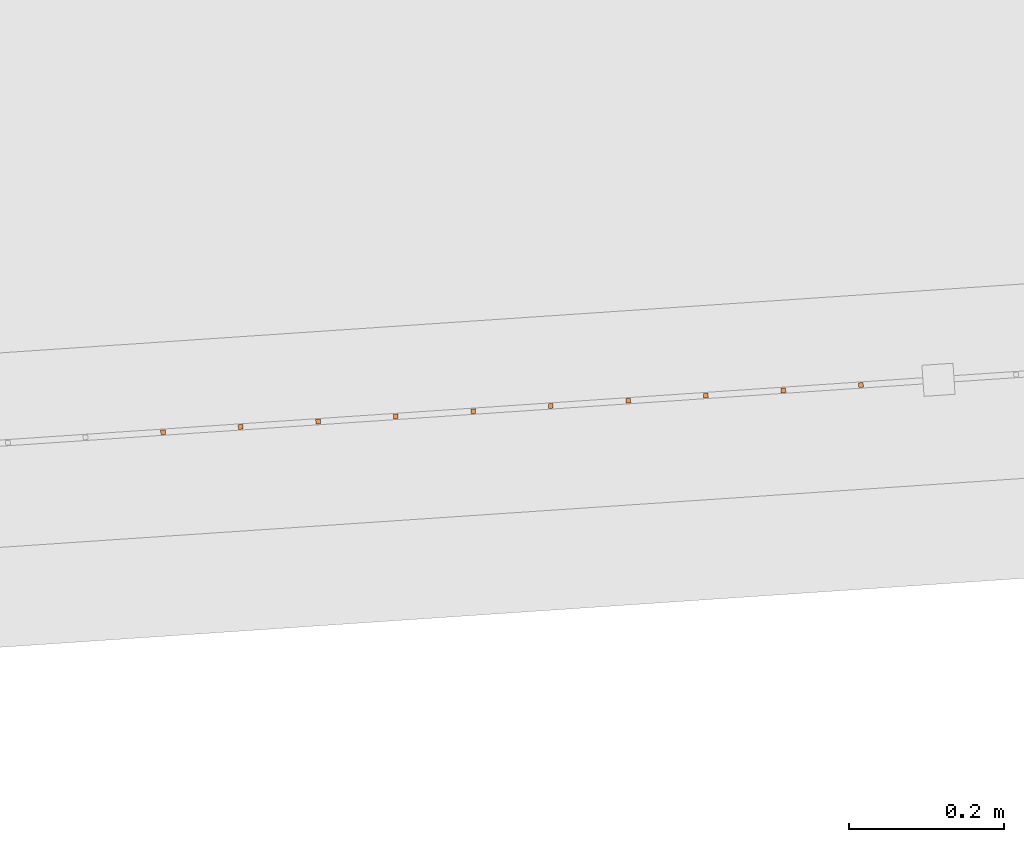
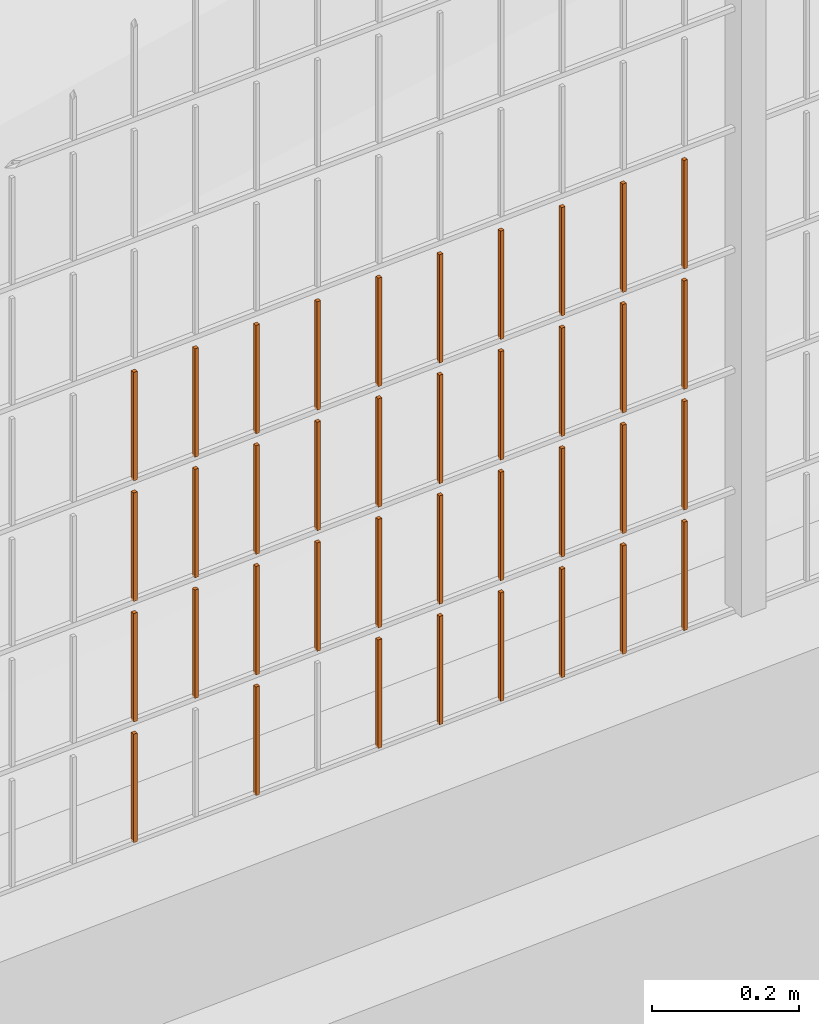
# One storey, part 94 of 1809: 38 proxies, 1 element without a shape of its own.
"""IFC2X3 building model written with IfcOpenShell, lengths in millimetres."""

from ifc_helpers import new_model, entity, si_unit, converted_unit, derived_unit, money_unit, direction, frame, origin_with_axes, place, context, subcontext, project, spatial, faceted_brep, source, transform, mapped, material, type_object, element, aggregate, save


model = new_model("IFC2X3")

# Units and contexts
model_context = context("Model", 3, precision=0.01, world=origin_with_axes(), true_north=direction((0.0, 1.0)))
body_context = subcontext(model_context, "Body", "Model", "MODEL_VIEW")
ifc_project = project(units=[si_unit("LENGTHUNIT", "METRE", prefix="MILLI"), si_unit("AREAUNIT", "SQUARE_METRE"), si_unit("VOLUMEUNIT", "CUBIC_METRE"), converted_unit("PLANEANGLEUNIT", "DEGREE", entity("IfcPlaneAngleMeasure", 0.0174532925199), si_unit("PLANEANGLEUNIT", "RADIAN"), dimensions=[0, 0, 0, 0, 0, 0, 0]), si_unit("SOLIDANGLEUNIT", "STERADIAN"), money_unit("EUR"), converted_unit("TIMEUNIT", "Year", entity("IfcTimeMeasure", 31556926.0), si_unit("TIMEUNIT", "SECOND"), dimensions=[0, 0, 1, 0, 0, 0, 0]), si_unit("MASSUNIT", "GRAM", prefix="KILO"), si_unit("THERMODYNAMICTEMPERATUREUNIT", "DEGREE_CELSIUS"), si_unit("LUMINOUSINTENSITYUNIT", "LUMEN"), si_unit("ENERGYUNIT", "JOULE", prefix="MEGA"), derived_unit("THERMALCONDUCTANCEUNIT", [(si_unit("POWERUNIT", "WATT"), 1), (si_unit("LENGTHUNIT", "METRE"), -1), (si_unit("THERMODYNAMICTEMPERATUREUNIT", "KELVIN"), -1)]), derived_unit("SPECIFICHEATCAPACITYUNIT", [(si_unit("ENERGYUNIT", "JOULE"), 1), (si_unit("MASSUNIT", "GRAM", prefix="KILO"), -1), (si_unit("THERMODYNAMICTEMPERATUREUNIT", "KELVIN"), -1)]), derived_unit("MASSDENSITYUNIT", [(si_unit("MASSUNIT", "GRAM", prefix="KILO"), 1), (si_unit("VOLUMEUNIT", "CUBIC_METRE"), -1)])], contexts=[model_context])

# Site, building, storey
site_placement = place(None, origin_with_axes())
site = spatial("IfcSite", under=ifc_project, at=site_placement, Name="Politse- ja Piirivalveameti ning Päästeameti ühishoone", CompositionType="ELEMENT")
building_placement = place(site_placement, origin_with_axes())
building = spatial("IfcBuilding", under=site, at=building_placement, Name="Politse- ja Piirivalveameti ning Päästeameti ühishoone", CompositionType="ELEMENT")
storey_placement = place(building_placement, origin_with_axes())
storey = spatial("IfcBuildingStorey", under=building, at=storey_placement, Name="Esimene korrus", CompositionType="ELEMENT", Elevation=0.0)

# Proxies
building_element_proxy_type_1 = type_object("IfcBuildingElementProxyType", Name="Railing Type", PredefinedType="NOTDEFINED")
proxy_1_placement = place(storey_placement, frame((89252.001212, -29183.4766571, 203.661247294), z_axis=(0.0, 0.0, 1.0), x_axis=(1.0, 0.0, 0.0)))
proxy_1 = element("IfcBuildingElementProxy", 1, at=proxy_1_placement, inside=storey, type_object=building_element_proxy_type_1, Name="PIIRDEAED")
ifc_material = material(Name="ET-03_Raud")
building_element_proxy_type_2 = type_object("IfcBuildingElementProxyType", Name="IfcBuildingElementProxy", PredefinedType="NOTDEFINED")
shared_shape_1 = source(origin_with_axes(), body_context, "Body", "Brep", [
    faceted_brep([(3.0, 3.0, -0.000752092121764), (-3.0, 3.0, -0.000752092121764), (-3.0, 3.0, 179.99926046), (3.0, 3.0, 179.99926046), (3.0, -3.0, 0.000752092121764), (-3.0, -3.0, 0.000752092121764), (-3.0, -3.0, 180.000764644), (3.0, -3.0, 180.000764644)], [[[0, 1, 2, 3]], [[0, 4, 5, 1]], [[1, 5, 6, 2]], [[3, 2, 6, 7]], [[4, 0, 3, 7]], [[5, 4, 7, 6]]]),
])
proxy_2_placement = place(proxy_1_placement, frame((-97604.281952, -23890.5756622, 602.709491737), z_axis=(0.0, 0.0, 1.0), x_axis=(1.0, 0.0, 0.0)))
proxy_2 = element("IfcBuildingElementProxy", 2, at=proxy_2_placement, type_object=building_element_proxy_type_2, material=ifc_material, Name="BALUSTER - 001", context=body_context, shape_type="MappedRepresentation", body=[
    mapped(shared_shape_1, transform((0.0, 0.0, 0.0), x_axis=(-0.0673926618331, 0.997726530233, 0.0), y_axis=(-0.997726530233, -0.0673926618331, 0.0), z_axis=(0.0, 0.0, 1.0))),
])
shared_shape_2 = source(origin_with_axes(), body_context, "Body", "Brep", [
    faceted_brep([(3.0, 3.0, -0.000752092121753), (-3.0, 3.0, -0.000752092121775), (-3.0, 3.0, 179.99926046), (3.0, 3.0, 179.99926046), (3.0, -3.0, 0.000752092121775), (-3.0, -3.0, 0.000752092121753), (-3.0, -3.0, 180.000764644), (3.0, -3.0, 180.000764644)], [[[0, 1, 2, 3]], [[0, 4, 5, 1]], [[1, 5, 6, 2]], [[3, 2, 6, 7]], [[4, 0, 3, 7]], [[5, 4, 7, 6]]]),
])
proxy_3_placement = place(proxy_1_placement, frame((-97504.509299, -23883.836396, 2.73456147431), z_axis=(0.0, 0.0, 1.0), x_axis=(1.0, 0.0, 0.0)))
proxy_3 = element("IfcBuildingElementProxy", 3, at=proxy_3_placement, type_object=building_element_proxy_type_2, material=ifc_material, Name="BALUSTER - 001", context=body_context, shape_type="MappedRepresentation", body=[
    mapped(shared_shape_2, transform((0.0, 0.0, 0.0), x_axis=(-0.0673926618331, 0.997726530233, 0.0), y_axis=(-0.997726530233, -0.0673926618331, 0.0), z_axis=(0.0, 0.0, 1.0))),
])
shared_shape_3 = source(origin_with_axes(), body_context, "Body", "Brep", [
    faceted_brep([(3.0, 3.0, -0.000752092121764), (-3.0, 3.0, -0.000752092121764), (-3.0, 3.0, 179.99926046), (3.0, 3.0, 179.99926046), (3.0, -3.0, 0.000752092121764), (-3.0, -3.0, 0.000752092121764), (-3.0, -3.0, 180.000764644), (3.0, -3.0, 180.000764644)], [[[0, 1, 2, 3]], [[0, 4, 5, 1]], [[1, 5, 6, 2]], [[3, 2, 6, 7]], [[4, 0, 3, 7]], [[5, 4, 7, 6]]]),
])
proxy_4_placement = place(proxy_1_placement, frame((-97205.1913399, -23863.6185975, 2.80977068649), z_axis=(0.0, 0.0, 1.0), x_axis=(1.0, 0.0, 0.0)))
proxy_4 = element("IfcBuildingElementProxy", 4, at=proxy_4_placement, type_object=building_element_proxy_type_2, material=ifc_material, Name="BALUSTER - 001", context=body_context, shape_type="MappedRepresentation", body=[
    mapped(shared_shape_3, transform((0.0, 0.0, 0.0), x_axis=(-0.0673926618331, 0.997726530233, 0.0), y_axis=(-0.997726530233, -0.0673926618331, 0.0), z_axis=(0.0, 0.0, 1.0))),
])
proxy_5_placement = place(proxy_1_placement, frame((-97903.5999111, -23910.7934607, 2.63428252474), z_axis=(0.0, 0.0, 1.0), x_axis=(1.0, 0.0, 0.0)))
proxy_5 = element("IfcBuildingElementProxy", 5, at=proxy_5_placement, type_object=building_element_proxy_type_2, material=ifc_material, Name="BALUSTER - 001", context=body_context, shape_type="MappedRepresentation", body=[
    mapped(shared_shape_3, transform((0.0, 0.0, 0.0), x_axis=(-0.0673926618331, 0.997726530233, 0.0), y_axis=(-0.997726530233, -0.0673926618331, 0.0), z_axis=(0.0, 0.0, 1.0))),
])
shared_shape_4 = source(origin_with_axes(), body_context, "Body", "Brep", [
    faceted_brep([(3.0, 3.0, -0.000752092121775), (-3.0, 3.0, -0.000752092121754), (-3.0, 3.0, 179.99926046), (3.0, 3.0, 179.99926046), (3.0, -3.0, 0.000752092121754), (-3.0, -3.0, 0.000752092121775), (-3.0, -3.0, 180.000764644), (3.0, -3.0, 180.000764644)], [[[0, 1, 2, 3]], [[0, 4, 5, 1]], [[1, 5, 6, 2]], [[3, 2, 6, 7]], [[4, 0, 3, 7]], [[5, 4, 7, 6]]]),
])
proxy_6_placement = place(proxy_1_placement, frame((-97704.054605, -23897.3149284, 202.684422), z_axis=(0.0, 0.0, 1.0), x_axis=(1.0, 0.0, 0.0)))
proxy_6 = element("IfcBuildingElementProxy", 6, at=proxy_6_placement, type_object=building_element_proxy_type_2, material=ifc_material, Name="BALUSTER - 001", context=body_context, shape_type="MappedRepresentation", body=[
    mapped(shared_shape_4, transform((0.0, 0.0, 0.0), x_axis=(-0.0673926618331, 0.997726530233, 0.0), y_axis=(-0.997726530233, -0.0673926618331, 0.0), z_axis=(0.0, 0.0, 1.0))),
])
proxy_7_placement = place(proxy_1_placement, frame((-97704.054605, -23897.3149284, 402.684422), z_axis=(0.0, 0.0, 1.0), x_axis=(1.0, 0.0, 0.0)))
proxy_7 = element("IfcBuildingElementProxy", 7, at=proxy_7_placement, type_object=building_element_proxy_type_2, material=ifc_material, Name="BALUSTER - 001", context=body_context, shape_type="MappedRepresentation", body=[
    mapped(shared_shape_4, transform((0.0, 0.0, 0.0), x_axis=(-0.0673926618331, 0.997726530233, 0.0), y_axis=(-0.997726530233, -0.0673926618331, 0.0), z_axis=(0.0, 0.0, 1.0))),
])
shared_shape_5 = source(origin_with_axes(), body_context, "Body", "Brep", [
    faceted_brep([(3.0, 3.0, -0.000752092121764), (-3.0, 3.0, -0.000752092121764), (-3.0, 3.0, 179.99926046), (3.0, 3.0, 179.99926046), (3.0, -3.0, 0.000752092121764), (-3.0, -3.0, 0.000752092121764), (-3.0, -3.0, 180.000764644), (3.0, -3.0, 180.000764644)], [[[0, 1, 2, 3]], [[0, 4, 5, 1]], [[1, 5, 6, 2]], [[3, 2, 6, 7]], [[4, 0, 3, 7]], [[5, 4, 7, 6]]]),
])
proxy_8_placement = place(proxy_1_placement, frame((-97205.1913399, -23863.6185975, 202.809770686), z_axis=(0.0, 0.0, 1.0), x_axis=(1.0, 0.0, 0.0)))
proxy_8 = element("IfcBuildingElementProxy", 8, at=proxy_8_placement, type_object=building_element_proxy_type_2, material=ifc_material, Name="BALUSTER - 001", context=body_context, shape_type="MappedRepresentation", body=[
    mapped(shared_shape_5, transform((0.0, 0.0, 0.0), x_axis=(-0.0673926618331, 0.997726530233, 0.0), y_axis=(-0.997726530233, -0.0673926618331, 0.0), z_axis=(0.0, 0.0, 1.0))),
])
proxy_9_placement = place(proxy_1_placement, frame((-97304.9639929, -23870.3578636, 202.784700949), z_axis=(0.0, 0.0, 1.0), x_axis=(1.0, 0.0, 0.0)))
proxy_9 = element("IfcBuildingElementProxy", 9, at=proxy_9_placement, type_object=building_element_proxy_type_2, material=ifc_material, Name="BALUSTER - 001", context=body_context, shape_type="MappedRepresentation", body=[
    mapped(shared_shape_5, transform((0.0, 0.0, 0.0), x_axis=(-0.0673926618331, 0.997726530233, 0.0), y_axis=(-0.997726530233, -0.0673926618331, 0.0), z_axis=(0.0, 0.0, 1.0))),
])
proxy_10_placement = place(proxy_1_placement, frame((-97903.5999111, -23910.7934607, 202.634282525), z_axis=(0.0, 0.0, 1.0), x_axis=(1.0, 0.0, 0.0)))
proxy_10 = element("IfcBuildingElementProxy", 10, at=proxy_10_placement, type_object=building_element_proxy_type_2, material=ifc_material, Name="BALUSTER - 001", context=body_context, shape_type="MappedRepresentation", body=[
    mapped(shared_shape_5, transform((0.0, 0.0, 0.0), x_axis=(-0.0673926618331, 0.997726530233, 0.0), y_axis=(-0.997726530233, -0.0673926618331, 0.0), z_axis=(0.0, 0.0, 1.0))),
])
proxy_11_placement = place(proxy_1_placement, frame((-97903.5999111, -23910.7934607, 402.634282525), z_axis=(0.0, 0.0, 1.0), x_axis=(1.0, 0.0, 0.0)))
proxy_11 = element("IfcBuildingElementProxy", 11, at=proxy_11_placement, type_object=building_element_proxy_type_2, material=ifc_material, Name="BALUSTER - 001", context=body_context, shape_type="MappedRepresentation", body=[
    mapped(shared_shape_5, transform((0.0, 0.0, 0.0), x_axis=(-0.0673926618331, 0.997726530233, 0.0), y_axis=(-0.997726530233, -0.0673926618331, 0.0), z_axis=(0.0, 0.0, 1.0))),
])
proxy_12_placement = place(proxy_1_placement, frame((-97304.9639929, -23870.3578636, 602.784700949), z_axis=(0.0, 0.0, 1.0), x_axis=(1.0, 0.0, 0.0)))
proxy_12 = element("IfcBuildingElementProxy", 12, at=proxy_12_placement, type_object=building_element_proxy_type_2, material=ifc_material, Name="BALUSTER - 001", context=body_context, shape_type="MappedRepresentation", body=[
    mapped(shared_shape_5, transform((0.0, 0.0, 0.0), x_axis=(-0.0673926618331, 0.997726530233, 0.0), y_axis=(-0.997726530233, -0.0673926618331, 0.0), z_axis=(0.0, 0.0, 1.0))),
])
proxy_13_placement = place(proxy_1_placement, frame((-97903.5999111, -23910.7934607, 602.634282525), z_axis=(0.0, 0.0, 1.0), x_axis=(1.0, 0.0, 0.0)))
proxy_13 = element("IfcBuildingElementProxy", 13, at=proxy_13_placement, type_object=building_element_proxy_type_2, material=ifc_material, Name="BALUSTER - 001", context=body_context, shape_type="MappedRepresentation", body=[
    mapped(shared_shape_5, transform((0.0, 0.0, 0.0), x_axis=(-0.0673926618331, 0.997726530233, 0.0), y_axis=(-0.997726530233, -0.0673926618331, 0.0), z_axis=(0.0, 0.0, 1.0))),
])
shared_shape_6 = source(origin_with_axes(), body_context, "Body", "Brep", [
    faceted_brep([(3.0, 3.0, -0.000752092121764), (-3.0, 3.0, -0.000752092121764), (-3.0, 3.0, 179.99926046), (3.0, 3.0, 179.99926046), (3.0, -3.0, 0.000752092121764), (-3.0, -3.0, 0.000752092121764), (-3.0, -3.0, 180.000764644), (3.0, -3.0, 180.000764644)], [[[0, 1, 2, 3]], [[0, 4, 5, 1]], [[1, 5, 6, 2]], [[3, 2, 6, 7]], [[4, 0, 3, 7]], [[5, 4, 7, 6]]]),
])
proxy_14_placement = place(proxy_1_placement, frame((-97304.9639929, -23870.3578636, 2.78470094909), z_axis=(0.0, 0.0, 1.0), x_axis=(1.0, 0.0, 0.0)))
proxy_14 = element("IfcBuildingElementProxy", 14, at=proxy_14_placement, type_object=building_element_proxy_type_2, material=ifc_material, Name="BALUSTER - 001", context=body_context, shape_type="MappedRepresentation", body=[
    mapped(shared_shape_6, transform((0.0, 0.0, 0.0), x_axis=(-0.0673926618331, 0.997726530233, 0.0), y_axis=(-0.997726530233, -0.0673926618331, 0.0), z_axis=(0.0, 0.0, 1.0))),
])
shared_shape_7 = source(origin_with_axes(), body_context, "Body", "Brep", [
    faceted_brep([(3.0, 3.0, -0.000752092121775), (-3.0, 3.0, -0.000752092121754), (-3.0, 3.0, 179.99926046), (3.0, 3.0, 179.99926046), (3.0, -3.0, 0.000752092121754), (-3.0, -3.0, 0.000752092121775), (-3.0, -3.0, 180.000764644), (3.0, -3.0, 180.000764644)], [[[0, 1, 2, 3]], [[0, 4, 5, 1]], [[1, 5, 6, 2]], [[3, 2, 6, 7]], [[4, 0, 3, 7]], [[5, 4, 7, 6]]]),
])
proxy_15_placement = place(proxy_1_placement, frame((-97704.054605, -23897.3149284, 602.684422), z_axis=(0.0, 0.0, 1.0), x_axis=(1.0, 0.0, 0.0)))
proxy_15 = element("IfcBuildingElementProxy", 15, at=proxy_15_placement, type_object=building_element_proxy_type_2, material=ifc_material, Name="BALUSTER - 001", context=body_context, shape_type="MappedRepresentation", body=[
    mapped(shared_shape_7, transform((0.0, 0.0, 0.0), x_axis=(-0.0673926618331, 0.997726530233, 0.0), y_axis=(-0.997726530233, -0.0673926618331, 0.0), z_axis=(0.0, 0.0, 1.0))),
])
shared_shape_8 = source(origin_with_axes(), body_context, "Body", "Brep", [
    faceted_brep([(3.0, 3.0, -0.000752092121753), (-3.0, 3.0, -0.000752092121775), (-3.0, 3.0, 179.99926046), (3.0, 3.0, 179.99926046), (3.0, -3.0, 0.000752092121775), (-3.0, -3.0, 0.000752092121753), (-3.0, -3.0, 180.000764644), (3.0, -3.0, 180.000764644)], [[[0, 1, 2, 3]], [[0, 4, 5, 1]], [[1, 5, 6, 2]], [[3, 2, 6, 7]], [[4, 0, 3, 7]], [[5, 4, 7, 6]]]),
])
proxy_16_placement = place(proxy_1_placement, frame((-98003.3725641, -23917.5327269, 402.609212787), z_axis=(0.0, 0.0, 1.0), x_axis=(1.0, 0.0, 0.0)))
proxy_16 = element("IfcBuildingElementProxy", 16, at=proxy_16_placement, type_object=building_element_proxy_type_2, material=ifc_material, Name="BALUSTER - 001", context=body_context, shape_type="MappedRepresentation", body=[
    mapped(shared_shape_8, transform((0.0, 0.0, 0.0), x_axis=(-0.0673926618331, 0.997726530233, 0.0), y_axis=(-0.997726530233, -0.0673926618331, 0.0), z_axis=(0.0, 0.0, 1.0))),
])
proxy_17_placement = place(proxy_1_placement, frame((-97404.7366459, -23877.0971298, 602.759631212), z_axis=(0.0, 0.0, 1.0), x_axis=(1.0, 0.0, 0.0)))
proxy_17 = element("IfcBuildingElementProxy", 17, at=proxy_17_placement, type_object=building_element_proxy_type_2, material=ifc_material, Name="BALUSTER - 001", context=body_context, shape_type="MappedRepresentation", body=[
    mapped(shared_shape_8, transform((0.0, 0.0, 0.0), x_axis=(-0.0673926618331, 0.997726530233, 0.0), y_axis=(-0.997726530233, -0.0673926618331, 0.0), z_axis=(0.0, 0.0, 1.0))),
])
shared_shape_9 = source(origin_with_axes(), body_context, "Body", "Brep", [
    faceted_brep([(3.0, 3.0, -0.000752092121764), (-3.0, 3.0, -0.000752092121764), (-3.0, 3.0, 179.99926046), (3.0, 3.0, 179.99926046), (3.0, -3.0, 0.000752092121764), (-3.0, -3.0, 0.000752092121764), (-3.0, -3.0, 180.000764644), (3.0, -3.0, 180.000764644)], [[[0, 1, 2, 3]], [[0, 4, 5, 1]], [[1, 5, 6, 2]], [[3, 2, 6, 7]], [[4, 0, 3, 7]], [[5, 4, 7, 6]]]),
])
proxy_18_placement = place(proxy_1_placement, frame((-97304.9639929, -23870.3578636, 402.784700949), z_axis=(0.0, 0.0, 1.0), x_axis=(1.0, 0.0, 0.0)))
proxy_18 = element("IfcBuildingElementProxy", 18, at=proxy_18_placement, type_object=building_element_proxy_type_2, material=ifc_material, Name="BALUSTER - 001", context=body_context, shape_type="MappedRepresentation", body=[
    mapped(shared_shape_9, transform((0.0, 0.0, 0.0), x_axis=(-0.0673926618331, 0.997726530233, 0.0), y_axis=(-0.997726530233, -0.0673926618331, 0.0), z_axis=(0.0, 0.0, 1.0))),
])
shared_shape_10 = source(origin_with_axes(), body_context, "Body", "Brep", [
    faceted_brep([(3.0, 3.0, -0.000752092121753), (-3.0, 3.0, -0.000752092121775), (-3.0, 3.0, 179.99926046), (3.0, 3.0, 179.99926046), (3.0, -3.0, 0.000752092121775), (-3.0, -3.0, 0.000752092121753), (-3.0, -3.0, 180.000764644), (3.0, -3.0, 180.000764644)], [[[0, 1, 2, 3]], [[0, 4, 5, 1]], [[1, 5, 6, 2]], [[3, 2, 6, 7]], [[4, 0, 3, 7]], [[5, 4, 7, 6]]]),
])
proxy_19_placement = place(proxy_1_placement, frame((-97404.7366459, -23877.0971298, 2.7596312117), z_axis=(0.0, 0.0, 1.0), x_axis=(1.0, 0.0, 0.0)))
proxy_19 = element("IfcBuildingElementProxy", 19, at=proxy_19_placement, type_object=building_element_proxy_type_2, material=ifc_material, Name="BALUSTER - 001", context=body_context, shape_type="MappedRepresentation", body=[
    mapped(shared_shape_10, transform((0.0, 0.0, 0.0), x_axis=(-0.0673926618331, 0.997726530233, 0.0), y_axis=(-0.997726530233, -0.0673926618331, 0.0), z_axis=(0.0, 0.0, 1.0))),
])
shared_shape_11 = source(origin_with_axes(), body_context, "Body", "Brep", [
    faceted_brep([(3.0, 3.0, -0.000752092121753), (-3.0, 3.0, -0.000752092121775), (-3.0, 3.0, 179.99926046), (3.0, 3.0, 179.99926046), (3.0, -3.0, 0.000752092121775), (-3.0, -3.0, 0.000752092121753), (-3.0, -3.0, 180.000764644), (3.0, -3.0, 180.000764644)], [[[0, 1, 2, 3]], [[0, 4, 5, 1]], [[1, 5, 6, 2]], [[3, 2, 6, 7]], [[4, 0, 3, 7]], [[5, 4, 7, 6]]]),
])
proxy_20_placement = place(proxy_1_placement, frame((-98103.1452171, -23924.2719931, 2.58414304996), z_axis=(0.0, 0.0, 1.0), x_axis=(1.0, 0.0, 0.0)))
proxy_20 = element("IfcBuildingElementProxy", 20, at=proxy_20_placement, type_object=building_element_proxy_type_2, material=ifc_material, Name="BALUSTER - 001", context=body_context, shape_type="MappedRepresentation", body=[
    mapped(shared_shape_11, transform((0.0, 0.0, 0.0), x_axis=(-0.0673926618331, 0.997726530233, 0.0), y_axis=(-0.997726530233, -0.0673926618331, 0.0), z_axis=(0.0, 0.0, 1.0))),
])
shared_shape_12 = source(origin_with_axes(), body_context, "Body", "Brep", [
    faceted_brep([(3.0, 3.0, -0.000752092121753), (-3.0, 3.0, -0.000752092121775), (-3.0, 3.0, 179.99926046), (3.0, 3.0, 179.99926046), (3.0, -3.0, 0.000752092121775), (-3.0, -3.0, 0.000752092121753), (-3.0, -3.0, 180.000764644), (3.0, -3.0, 180.000764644)], [[[0, 1, 2, 3]], [[0, 4, 5, 1]], [[1, 5, 6, 2]], [[3, 2, 6, 7]], [[4, 0, 3, 7]], [[5, 4, 7, 6]]]),
])
proxy_21_placement = place(proxy_1_placement, frame((-98003.3725641, -23917.5327269, 202.609212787), z_axis=(0.0, 0.0, 1.0), x_axis=(1.0, 0.0, 0.0)))
proxy_21 = element("IfcBuildingElementProxy", 21, at=proxy_21_placement, type_object=building_element_proxy_type_2, material=ifc_material, Name="BALUSTER - 001", context=body_context, shape_type="MappedRepresentation", body=[
    mapped(shared_shape_12, transform((0.0, 0.0, 0.0), x_axis=(-0.0673926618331, 0.997726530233, 0.0), y_axis=(-0.997726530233, -0.0673926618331, 0.0), z_axis=(0.0, 0.0, 1.0))),
])
proxy_22_placement = place(proxy_1_placement, frame((-97404.7366459, -23877.0971298, 402.759631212), z_axis=(0.0, 0.0, 1.0), x_axis=(1.0, 0.0, 0.0)))
proxy_22 = element("IfcBuildingElementProxy", 22, at=proxy_22_placement, type_object=building_element_proxy_type_2, material=ifc_material, Name="BALUSTER - 001", context=body_context, shape_type="MappedRepresentation", body=[
    mapped(shared_shape_12, transform((0.0, 0.0, 0.0), x_axis=(-0.0673926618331, 0.997726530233, 0.0), y_axis=(-0.997726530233, -0.0673926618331, 0.0), z_axis=(0.0, 0.0, 1.0))),
])
proxy_23_placement = place(proxy_1_placement, frame((-97504.509299, -23883.836396, 402.734561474), z_axis=(0.0, 0.0, 1.0), x_axis=(1.0, 0.0, 0.0)))
proxy_23 = element("IfcBuildingElementProxy", 23, at=proxy_23_placement, type_object=building_element_proxy_type_2, material=ifc_material, Name="BALUSTER - 001", context=body_context, shape_type="MappedRepresentation", body=[
    mapped(shared_shape_12, transform((0.0, 0.0, 0.0), x_axis=(-0.0673926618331, 0.997726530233, 0.0), y_axis=(-0.997726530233, -0.0673926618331, 0.0), z_axis=(0.0, 0.0, 1.0))),
])
proxy_24_placement = place(proxy_1_placement, frame((-97504.509299, -23883.836396, 602.734561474), z_axis=(0.0, 0.0, 1.0), x_axis=(1.0, 0.0, 0.0)))
proxy_24 = element("IfcBuildingElementProxy", 24, at=proxy_24_placement, type_object=building_element_proxy_type_2, material=ifc_material, Name="BALUSTER - 001", context=body_context, shape_type="MappedRepresentation", body=[
    mapped(shared_shape_12, transform((0.0, 0.0, 0.0), x_axis=(-0.0673926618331, 0.997726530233, 0.0), y_axis=(-0.997726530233, -0.0673926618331, 0.0), z_axis=(0.0, 0.0, 1.0))),
])
proxy_25_placement = place(proxy_1_placement, frame((-98003.3725641, -23917.5327269, 602.609212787), z_axis=(0.0, 0.0, 1.0), x_axis=(1.0, 0.0, 0.0)))
proxy_25 = element("IfcBuildingElementProxy", 25, at=proxy_25_placement, type_object=building_element_proxy_type_2, material=ifc_material, Name="BALUSTER - 001", context=body_context, shape_type="MappedRepresentation", body=[
    mapped(shared_shape_12, transform((0.0, 0.0, 0.0), x_axis=(-0.0673926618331, 0.997726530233, 0.0), y_axis=(-0.997726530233, -0.0673926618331, 0.0), z_axis=(0.0, 0.0, 1.0))),
])
shared_shape_13 = source(origin_with_axes(), body_context, "Body", "Brep", [
    faceted_brep([(3.0, 3.0, -0.000752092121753), (-3.0, 3.0, -0.000752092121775), (-3.0, 3.0, 179.99926046), (3.0, 3.0, 179.99926046), (3.0, -3.0, 0.000752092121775), (-3.0, -3.0, 0.000752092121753), (-3.0, -3.0, 180.000764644), (3.0, -3.0, 180.000764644)], [[[0, 1, 2, 3]], [[0, 4, 5, 1]], [[1, 5, 6, 2]], [[3, 2, 6, 7]], [[4, 0, 3, 7]], [[5, 4, 7, 6]]]),
])
proxy_26_placement = place(proxy_1_placement, frame((-98103.1452171, -23924.2719931, 602.58414305), z_axis=(0.0, 0.0, 1.0), x_axis=(1.0, 0.0, 0.0)))
proxy_26 = element("IfcBuildingElementProxy", 26, at=proxy_26_placement, type_object=building_element_proxy_type_2, material=ifc_material, Name="BALUSTER - 001", context=body_context, shape_type="MappedRepresentation", body=[
    mapped(shared_shape_13, transform((0.0, 0.0, 0.0), x_axis=(-0.0673926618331, 0.997726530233, 0.0), y_axis=(-0.997726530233, -0.0673926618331, 0.0), z_axis=(0.0, 0.0, 1.0))),
])
shared_shape_14 = source(origin_with_axes(), body_context, "Body", "Brep", [
    faceted_brep([(3.0, 3.0, -0.000752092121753), (-3.0, 3.0, -0.000752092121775), (-3.0, 3.0, 179.99926046), (3.0, 3.0, 179.99926046), (3.0, -3.0, 0.000752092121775), (-3.0, -3.0, 0.000752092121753), (-3.0, -3.0, 180.000764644), (3.0, -3.0, 180.000764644)], [[[0, 1, 2, 3]], [[0, 4, 5, 1]], [[1, 5, 6, 2]], [[3, 2, 6, 7]], [[4, 0, 3, 7]], [[5, 4, 7, 6]]]),
])
proxy_27_placement = place(proxy_1_placement, frame((-98103.1452171, -23924.2719931, 402.58414305), z_axis=(0.0, 0.0, 1.0), x_axis=(1.0, 0.0, 0.0)))
proxy_27 = element("IfcBuildingElementProxy", 27, at=proxy_27_placement, type_object=building_element_proxy_type_2, material=ifc_material, Name="BALUSTER - 001", context=body_context, shape_type="MappedRepresentation", body=[
    mapped(shared_shape_14, transform((0.0, 0.0, 0.0), x_axis=(-0.0673926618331, 0.997726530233, 0.0), y_axis=(-0.997726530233, -0.0673926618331, 0.0), z_axis=(0.0, 0.0, 1.0))),
])
shared_shape_15 = source(origin_with_axes(), body_context, "Body", "Brep", [
    faceted_brep([(3.0, 3.0, -0.000752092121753), (-3.0, 3.0, -0.000752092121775), (-3.0, 3.0, 179.99926046), (3.0, 3.0, 179.99926046), (3.0, -3.0, 0.000752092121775), (-3.0, -3.0, 0.000752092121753), (-3.0, -3.0, 180.000764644), (3.0, -3.0, 180.000764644)], [[[0, 1, 2, 3]], [[0, 4, 5, 1]], [[1, 5, 6, 2]], [[3, 2, 6, 7]], [[4, 0, 3, 7]], [[5, 4, 7, 6]]]),
])
proxy_28_placement = place(proxy_1_placement, frame((-97404.7366459, -23877.0971298, 202.759631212), z_axis=(0.0, 0.0, 1.0), x_axis=(1.0, 0.0, 0.0)))
proxy_28 = element("IfcBuildingElementProxy", 28, at=proxy_28_placement, type_object=building_element_proxy_type_2, material=ifc_material, Name="BALUSTER - 001", context=body_context, shape_type="MappedRepresentation", body=[
    mapped(shared_shape_15, transform((0.0, 0.0, 0.0), x_axis=(-0.0673926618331, 0.997726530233, 0.0), y_axis=(-0.997726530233, -0.0673926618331, 0.0), z_axis=(0.0, 0.0, 1.0))),
])
proxy_29_placement = place(proxy_1_placement, frame((-97504.509299, -23883.836396, 202.734561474), z_axis=(0.0, 0.0, 1.0), x_axis=(1.0, 0.0, 0.0)))
proxy_29 = element("IfcBuildingElementProxy", 29, at=proxy_29_placement, type_object=building_element_proxy_type_2, material=ifc_material, Name="BALUSTER - 001", context=body_context, shape_type="MappedRepresentation", body=[
    mapped(shared_shape_15, transform((0.0, 0.0, 0.0), x_axis=(-0.0673926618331, 0.997726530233, 0.0), y_axis=(-0.997726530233, -0.0673926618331, 0.0), z_axis=(0.0, 0.0, 1.0))),
])
shared_shape_16 = source(origin_with_axes(), body_context, "Body", "Brep", [
    faceted_brep([(3.0, 3.0, -0.000752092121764), (-3.0, 3.0, -0.000752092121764), (-3.0, 3.0, 179.99926046), (3.0, 3.0, 179.99926046), (3.0, -3.0, 0.000752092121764), (-3.0, -3.0, 0.000752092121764), (-3.0, -3.0, 180.000764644), (3.0, -3.0, 180.000764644)], [[[0, 1, 2, 3]], [[0, 4, 5, 1]], [[1, 5, 6, 2]], [[3, 2, 6, 7]], [[4, 0, 3, 7]], [[5, 4, 7, 6]]]),
])
proxy_30_placement = place(proxy_1_placement, frame((-97604.281952, -23890.5756622, 402.709491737), z_axis=(0.0, 0.0, 1.0), x_axis=(1.0, 0.0, 0.0)))
proxy_30 = element("IfcBuildingElementProxy", 30, at=proxy_30_placement, type_object=building_element_proxy_type_2, material=ifc_material, Name="BALUSTER - 001", context=body_context, shape_type="MappedRepresentation", body=[
    mapped(shared_shape_16, transform((0.0, 0.0, 0.0), x_axis=(-0.0673926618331, 0.997726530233, 0.0), y_axis=(-0.997726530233, -0.0673926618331, 0.0), z_axis=(0.0, 0.0, 1.0))),
])
shared_shape_17 = source(origin_with_axes(), body_context, "Body", "Brep", [
    faceted_brep([(3.0, 3.0, -0.000752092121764), (-3.0, 3.0, -0.000752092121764), (-3.0, 3.0, 179.99926046), (3.0, 3.0, 179.99926046), (3.0, -3.0, 0.000752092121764), (-3.0, -3.0, 0.000752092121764), (-3.0, -3.0, 180.000764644), (3.0, -3.0, 180.000764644)], [[[0, 1, 2, 3]], [[0, 4, 5, 1]], [[1, 5, 6, 2]], [[3, 2, 6, 7]], [[4, 0, 3, 7]], [[5, 4, 7, 6]]]),
])
proxy_31_placement = place(proxy_1_placement, frame((-97604.281952, -23890.5756622, 2.70949173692), z_axis=(0.0, 0.0, 1.0), x_axis=(1.0, 0.0, 0.0)))
proxy_31 = element("IfcBuildingElementProxy", 31, at=proxy_31_placement, type_object=building_element_proxy_type_2, material=ifc_material, Name="BALUSTER - 001", context=body_context, shape_type="MappedRepresentation", body=[
    mapped(shared_shape_17, transform((0.0, 0.0, 0.0), x_axis=(-0.0673926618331, 0.997726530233, 0.0), y_axis=(-0.997726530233, -0.0673926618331, 0.0), z_axis=(0.0, 0.0, 1.0))),
])
proxy_32_placement = place(proxy_1_placement, frame((-97604.281952, -23890.5756622, 202.709491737), z_axis=(0.0, 0.0, 1.0), x_axis=(1.0, 0.0, 0.0)))
proxy_32 = element("IfcBuildingElementProxy", 32, at=proxy_32_placement, type_object=building_element_proxy_type_2, material=ifc_material, Name="BALUSTER - 001", context=body_context, shape_type="MappedRepresentation", body=[
    mapped(shared_shape_17, transform((0.0, 0.0, 0.0), x_axis=(-0.0673926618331, 0.997726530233, 0.0), y_axis=(-0.997726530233, -0.0673926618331, 0.0), z_axis=(0.0, 0.0, 1.0))),
])
shared_shape_18 = source(origin_with_axes(), body_context, "Body", "Brep", [
    faceted_brep([(3.0, 3.0, -0.000752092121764), (-3.0, 3.0, -0.000752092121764), (-3.0, 3.0, 179.99926046), (3.0, 3.0, 179.99926046), (3.0, -3.0, 0.000752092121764), (-3.0, -3.0, 0.000752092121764), (-3.0, -3.0, 180.000764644), (3.0, -3.0, 180.000764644)], [[[0, 1, 2, 3]], [[0, 4, 5, 1]], [[1, 5, 6, 2]], [[3, 2, 6, 7]], [[4, 0, 3, 7]], [[5, 4, 7, 6]]]),
])
proxy_33_placement = place(proxy_1_placement, frame((-97803.827258, -23904.0541946, 202.659352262), z_axis=(0.0, 0.0, 1.0), x_axis=(1.0, 0.0, 0.0)))
proxy_33 = element("IfcBuildingElementProxy", 33, at=proxy_33_placement, type_object=building_element_proxy_type_2, material=ifc_material, Name="BALUSTER - 001", context=body_context, shape_type="MappedRepresentation", body=[
    mapped(shared_shape_18, transform((0.0, 0.0, 0.0), x_axis=(-0.0673926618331, 0.997726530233, 0.0), y_axis=(-0.997726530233, -0.0673926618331, 0.0), z_axis=(0.0, 0.0, 1.0))),
])
shared_shape_19 = source(origin_with_axes(), body_context, "Body", "Brep", [
    faceted_brep([(3.0, 3.0, -0.000752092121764), (-3.0, 3.0, -0.000752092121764), (-3.0, 3.0, 179.99926046), (3.0, 3.0, 179.99926046), (3.0, -3.0, 0.000752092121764), (-3.0, -3.0, 0.000752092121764), (-3.0, -3.0, 180.000764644), (3.0, -3.0, 180.000764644)], [[[0, 1, 2, 3]], [[0, 4, 5, 1]], [[1, 5, 6, 2]], [[3, 2, 6, 7]], [[4, 0, 3, 7]], [[5, 4, 7, 6]]]),
])
proxy_34_placement = place(proxy_1_placement, frame((-97803.827258, -23904.0541946, 402.659352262), z_axis=(0.0, 0.0, 1.0), x_axis=(1.0, 0.0, 0.0)))
proxy_34 = element("IfcBuildingElementProxy", 34, at=proxy_34_placement, type_object=building_element_proxy_type_2, material=ifc_material, Name="BALUSTER - 001", context=body_context, shape_type="MappedRepresentation", body=[
    mapped(shared_shape_19, transform((0.0, 0.0, 0.0), x_axis=(-0.0673926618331, 0.997726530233, 0.0), y_axis=(-0.997726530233, -0.0673926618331, 0.0), z_axis=(0.0, 0.0, 1.0))),
])
proxy_35_placement = place(proxy_1_placement, frame((-97803.827258, -23904.0541946, 602.659352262), z_axis=(0.0, 0.0, 1.0), x_axis=(1.0, 0.0, 0.0)))
proxy_35 = element("IfcBuildingElementProxy", 35, at=proxy_35_placement, type_object=building_element_proxy_type_2, material=ifc_material, Name="BALUSTER - 001", context=body_context, shape_type="MappedRepresentation", body=[
    mapped(shared_shape_19, transform((0.0, 0.0, 0.0), x_axis=(-0.0673926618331, 0.997726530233, 0.0), y_axis=(-0.997726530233, -0.0673926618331, 0.0), z_axis=(0.0, 0.0, 1.0))),
])
shared_shape_20 = source(origin_with_axes(), body_context, "Body", "Brep", [
    faceted_brep([(3.0, 3.0, -0.000752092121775), (-3.0, 3.0, -0.000752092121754), (-3.0, 3.0, 179.99926046), (3.0, 3.0, 179.99926046), (3.0, -3.0, 0.000752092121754), (-3.0, -3.0, 0.000752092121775), (-3.0, -3.0, 180.000764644), (3.0, -3.0, 180.000764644)], [[[0, 1, 2, 3]], [[0, 4, 5, 1]], [[1, 5, 6, 2]], [[3, 2, 6, 7]], [[4, 0, 3, 7]], [[5, 4, 7, 6]]]),
])
proxy_36_placement = place(proxy_1_placement, frame((-97704.054605, -23897.3149284, 2.68442199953), z_axis=(0.0, 0.0, 1.0), x_axis=(1.0, 0.0, 0.0)))
proxy_36 = element("IfcBuildingElementProxy", 36, at=proxy_36_placement, type_object=building_element_proxy_type_2, material=ifc_material, Name="BALUSTER - 001", context=body_context, shape_type="MappedRepresentation", body=[
    mapped(shared_shape_20, transform((0.0, 0.0, 0.0), x_axis=(-0.0673926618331, 0.997726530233, 0.0), y_axis=(-0.997726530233, -0.0673926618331, 0.0), z_axis=(0.0, 0.0, 1.0))),
])
shared_shape_21 = source(origin_with_axes(), body_context, "Body", "Brep", [
    faceted_brep([(3.0, 3.0, -0.000752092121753), (-3.0, 3.0, -0.000752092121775), (-3.0, 3.0, 179.99926046), (3.0, 3.0, 179.99926046), (3.0, -3.0, 0.000752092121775), (-3.0, -3.0, 0.000752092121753), (-3.0, -3.0, 180.000764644), (3.0, -3.0, 180.000764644)], [[[0, 1, 2, 3]], [[0, 4, 5, 1]], [[1, 5, 6, 2]], [[3, 2, 6, 7]], [[4, 0, 3, 7]], [[5, 4, 7, 6]]]),
])
proxy_37_placement = place(proxy_1_placement, frame((-98103.1452171, -23924.2719931, 202.58414305), z_axis=(0.0, 0.0, 1.0), x_axis=(1.0, 0.0, 0.0)))
proxy_37 = element("IfcBuildingElementProxy", 37, at=proxy_37_placement, type_object=building_element_proxy_type_2, material=ifc_material, Name="BALUSTER - 001", context=body_context, shape_type="MappedRepresentation", body=[
    mapped(shared_shape_21, transform((0.0, 0.0, 0.0), x_axis=(-0.0673926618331, 0.997726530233, 0.0), y_axis=(-0.997726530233, -0.0673926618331, 0.0), z_axis=(0.0, 0.0, 1.0))),
])
shared_shape_22 = source(origin_with_axes(), body_context, "Body", "Brep", [
    faceted_brep([(3.0, 3.0, -0.000752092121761), (-3.0, 3.0, -0.000752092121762), (-3.0, 3.0, 179.99926046), (3.0, 3.0, 179.99926046), (3.0, -3.0, 0.000752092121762), (-3.0, -3.0, 0.000752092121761), (-3.0, -3.0, 180.000764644), (3.0, -3.0, 180.000764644)], [[[0, 1, 2, 3]], [[0, 4, 5, 1]], [[1, 5, 6, 2]], [[3, 2, 6, 7]], [[4, 0, 3, 7]], [[5, 4, 7, 6]]]),
])
proxy_38_placement = place(proxy_1_placement, frame((-97205.1913399, -23863.6185975, 402.809770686), z_axis=(0.0, 0.0, 1.0), x_axis=(1.0, 0.0, 0.0)))
proxy_38 = element("IfcBuildingElementProxy", 38, at=proxy_38_placement, type_object=building_element_proxy_type_2, material=ifc_material, Name="BALUSTER - 001", context=body_context, shape_type="MappedRepresentation", body=[
    mapped(shared_shape_22, transform((0.0, 0.0, 0.0), x_axis=(-0.0673926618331, 0.997726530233, 0.0), y_axis=(-0.997726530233, -0.0673926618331, 0.0), z_axis=(0.0, 0.0, 1.0))),
])
proxy_39_placement = place(proxy_1_placement, frame((-97205.1913399, -23863.6185975, 602.809770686), z_axis=(0.0, 0.0, 1.0), x_axis=(1.0, 0.0, 0.0)))
proxy_39 = element("IfcBuildingElementProxy", 39, at=proxy_39_placement, type_object=building_element_proxy_type_2, material=ifc_material, Name="BALUSTER - 001", context=body_context, shape_type="MappedRepresentation", body=[
    mapped(shared_shape_22, transform((0.0, 0.0, 0.0), x_axis=(-0.0673926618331, 0.997726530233, 0.0), y_axis=(-0.997726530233, -0.0673926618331, 0.0), z_axis=(0.0, 0.0, 1.0))),
])
aggregate(proxy_1, [proxy_4, proxy_14, proxy_19, proxy_3, proxy_31, proxy_36, proxy_5, proxy_20, proxy_8, proxy_9, proxy_28, proxy_29, proxy_32, proxy_6, proxy_33, proxy_10, proxy_21, proxy_37, proxy_38, proxy_18, proxy_22, proxy_23, proxy_30, proxy_7, proxy_34, proxy_11, proxy_16, proxy_27, proxy_39, proxy_12, proxy_17, proxy_24, proxy_2, proxy_15, proxy_35, proxy_13, proxy_25, proxy_26])

save(model, "model.ifc")
